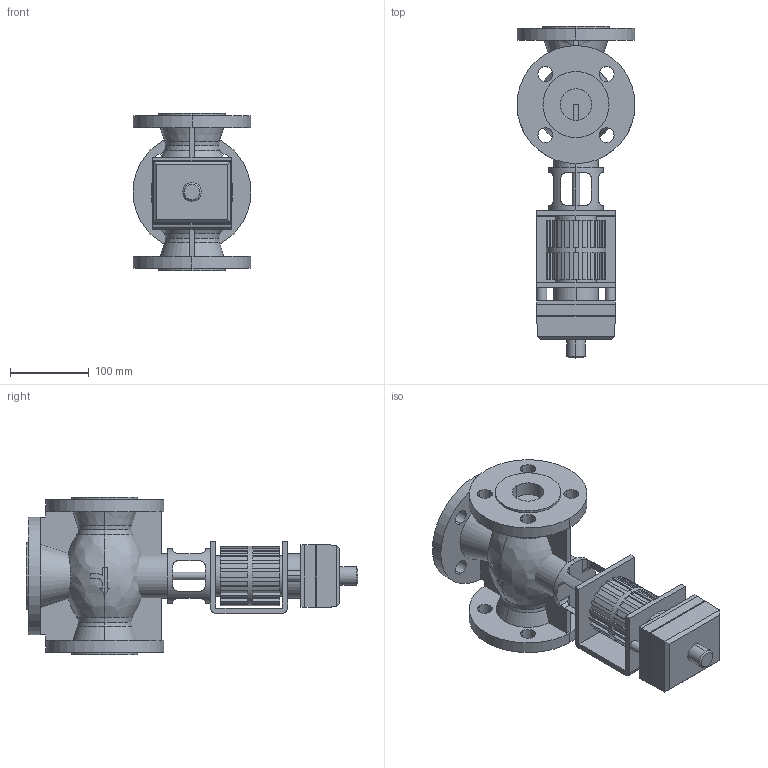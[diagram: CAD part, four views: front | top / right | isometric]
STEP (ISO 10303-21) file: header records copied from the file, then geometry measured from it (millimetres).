
FILE_DESCRIPTION((''),'2;1');
FILE_NAME('000264.stp','2006-10-04T15:58:14',(''),(''),'Mechanical Desktop 2006','Mechanical Desktop 2006',', , ');
FILE_SCHEMA(('AUTOMOTIVE_DESIGN { 1 2 10303 214 0 1 1 1 }'));
Length unit declared in the file: millimetre
Products named in the file (1): Product
Bounding box: 150 x 422 x 200 mm (x, y, z)
Volume: 3284968.4 mm3; surface area: 452919.3 mm2
Topology: 26 solids, 26 shells, 571 faces, 1513 edges, 994 vertices
Faces by surface type: plane 266, cylinder 186, bspline 114, cone 5
Entity records: 18793 total; most frequent: CARTESIAN_POINT 4616, ORIENTED_EDGE 3026, DIRECTION 2801, EDGE_CURVE 1513, VERTEX_POINT 994, VECTOR 945, LINE 945, AXIS2_PLACEMENT_3D 928
